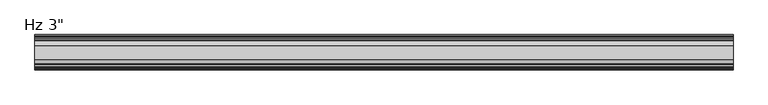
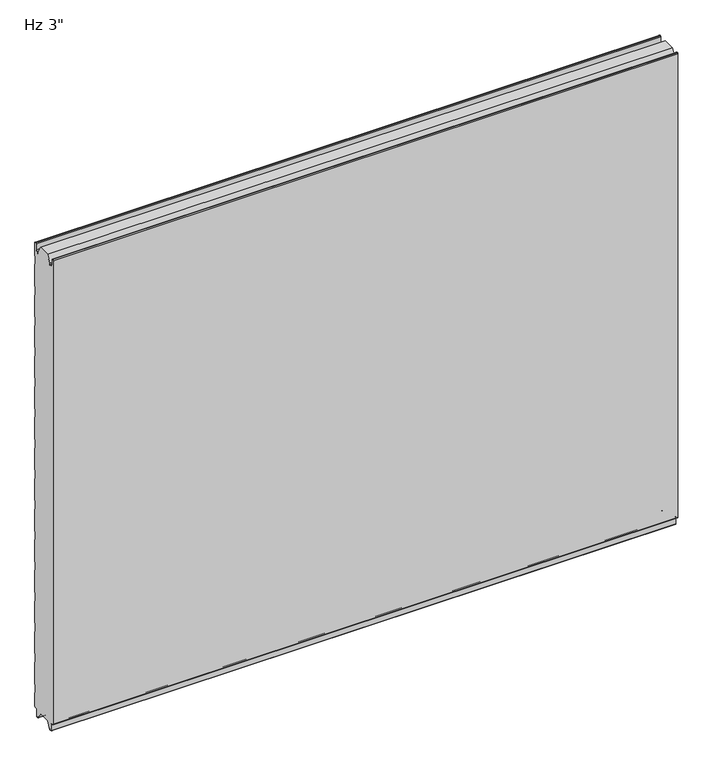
"""IFC4 building model written with IfcOpenShell, lengths in millimetres: plate geometry."""

from ifc_helpers import new_model, si_unit, frame, origin, place, context, project, spatial, polyline, circle_curve, source, transform, mapped, element, save
from ifc_brep_helpers import plane_surface, cylinder_surface, revolved_surface, advanced_brep


def plate_b0cb46f3(model_context):
    return source(origin(), model_context, "Body", "AdvancedBrep", [
        advanced_brep(
        [(-730.0, -73.2227194, 3.8499499), (-730.0, -75.1999935, 5.8272239), (-730.0, -75.2, 1150.8100652), (-730.0, -73.2227315, 1152.7873337), (-730.0, -72.1806329, 1152.7873337), (-730.0, -70.2033643, 1150.8100652), (-730.0, -70.2033643, 1136.6216802), (-730.0, -67.6154878, 1134.0338036), (-730.0, -63.2950697, 1134.0338036), (-730.0, -62.7060762, 1133.4253365), (-730.0, -62.7060762, 1131.0482432), (-730.0, -61.7066023, 1131.0482432), (-730.0, -61.7066023, 1136.4905123), (-730.0, -52.4490865, 1152.525), (-730.0, -23.7509179, 1152.525), (-730.0, -14.4934021, 1136.4905123), (-730.0, -14.4934021, 1131.0482432), (-730.0, -13.4939282, 1131.0482432), (-730.0, -13.4939282, 1133.4253365), (-730.0, -12.9049347, 1134.0338036), (-730.0, -8.5845165, 1134.0338036), (-730.0, -5.99664, 1136.6216802), (-730.0, -5.99664, 1150.8100652), (-730.0, -4.0193715, 1152.7873337), (-730.0, -2.9772729, 1152.7873337), (-730.0, -1.0000044, 1150.8100652), (-730.0, -1.0000044, 1118.6385351), (-730.0, -2.1911595, 1117.5660142), (-730.0, -2.1911595, 1097.7830195), (-730.0, -1.0, 1096.7104947), (-730.0, -1.0, 1043.0159187), (-730.0, -2.1911595, 1041.9433939), (-730.0, -2.1911595, 1022.1603992), (-730.0, -1.0, 1021.0878744), (-730.0, -1.0, 967.3932985), (-730.0, -2.1911595, 966.3207736), (-730.0, -2.1911595, 946.537779), (-730.0, -1.0, 945.4652541), (-730.0, -1.0, 891.7706782), (-730.0, -2.1911595, 890.6981534), (-730.0, -2.1911595, 870.9151587), (-730.0, -1.0, 869.8426339), (-730.0, -1.0, 816.148058), (-730.0, -2.1911595, 815.0755331), (-730.0, -2.1911595, 795.2925384), (-730.0, -1.0, 794.2200136), (-730.0, -1.0, 740.5254377), (-730.0, -2.1911595, 739.4529129), (-730.0, -2.1911595, 719.6699182), (-730.0, -1.0, 718.5973933), (-730.0, -1.0, 664.9028174), (-730.0, -2.1911595, 663.8302926), (-730.0, -2.1911595, 644.0472979), (-730.0, -1.0, 642.9747731), (-730.0, -1.0, 589.2801972), (-730.0, -2.1911595, 588.2076723), (-730.0, -2.1911595, 568.4246776), (-730.0, -1.0, 567.3521528), (-730.0, -1.0, 513.6575769), (-730.0, -2.1911595, 512.5850521), (-730.0, -2.1911595, 492.8020574), (-730.0, -1.0, 491.7295325), (-730.0, -1.0, 438.0349566), (-730.0, -2.1911595, 436.9624318), (-730.0, -2.1911595, 417.1794371), (-730.0, -1.0, 416.1069123), (-730.0, -1.0, 362.4123364), (-730.0, -2.1911595, 361.3398115), (-730.0, -2.1911595, 341.5568169), (-730.0, -1.0, 340.484292), (-730.0, -1.0, 286.7897161), (-730.0, -2.1911595, 285.7171913), (-730.0, -2.1911595, 265.9341966), (-730.0, -1.0, 264.8616718), (-730.0, -1.0, 211.1670958), (-730.0, -2.1911595, 210.094571), (-730.0, -2.1911595, 190.3115763), (-730.0, -1.0, 189.2390515), (-730.0, -1.0, 135.5444756), (-730.0, -2.1911595, 134.4719507), (-730.0, -2.1911595, 114.6889561), (-730.0, -1.0, 113.6164312), (-730.0, -1.0, 59.9218553), (-730.0, -2.1911595, 58.8493305), (-730.0, -2.1911595, 39.0663358), (-730.0, -1.0000109, 37.993811), (-730.0, -1.0000109, 5.8272239), (-730.0, -2.9772849, 3.8499499), (-730.0, -5.2691749, 3.8499499), (-730.0, -9.246442, -0.1273173), (-730.0, -9.246442, -15.7237417), (-730.0, -9.8343189, -16.3116186), (-730.0, -12.9058679, -16.3116186), (-730.0, -13.4937446, -15.723742), (-730.0, -13.4937446, -13.3687064), (-730.0, -14.4937446, -13.3687064), (-730.0, -14.4937446, -15.6582851), (-730.0, -23.7509179, 0.0), (-730.0, -52.4490865, 0.0), (-730.0, -61.7062598, -15.6582851), (-730.0, -61.7062598, -13.3687064), (-730.0, -62.7062598, -13.3687064), (-730.0, -62.7062598, -15.723742), (-730.0, -63.2941365, -16.3116186), (-730.0, -66.3656854, -16.3116186), (-730.0, -66.9535623, -15.7237417), (-730.0, -66.9535623, -0.1273173), (-730.0, -70.9308295, 3.8499499), (730.0, -73.2227194, 3.8499499), (730.0, -70.9308295, 3.8499499), (730.0, -66.9535623, -0.1273173), (730.0, -66.9535623, -15.7237417), (730.0, -66.3656854, -16.3116186), (730.0, -63.2941365, -16.3116186), (730.0, -62.7062598, -15.723742), (730.0, -62.7062598, -13.3687064), (730.0, -61.7062598, -13.3687064), (730.0, -61.7062598, -15.6582851), (730.0, -52.4490865, 0.0), (730.0, -23.7509179, 0.0), (730.0, -14.4937446, -15.6582851), (730.0, -14.4937446, -13.3687064), (730.0, -13.4937446, -13.3687064), (730.0, -13.4937446, -15.723742), (730.0, -12.9058679, -16.3116186), (730.0, -9.8343189, -16.3116186), (730.0, -9.246442, -15.7237417), (730.0, -9.246442, -0.1273173), (730.0, -5.2691749, 3.8499499), (730.0, -2.9772849, 3.8499499), (730.0, -1.0000109, 5.8272239), (730.0, -1.0000109, 37.993811), (730.0, -2.1911595, 39.0663358), (730.0, -2.1911595, 58.8493305), (730.0, -1.0, 59.9218553), (730.0, -1.0, 113.6164312), (730.0, -2.1911595, 114.6889561), (730.0, -2.1911595, 134.4719507), (730.0, -1.0, 135.5444756), (730.0, -1.0, 189.2390515), (730.0, -2.1911595, 190.3115763), (730.0, -2.1911595, 210.094571), (730.0, -1.0, 211.1670958), (730.0, -1.0, 264.8616718), (730.0, -2.1911595, 265.9341966), (730.0, -2.1911595, 285.7171913), (730.0, -1.0, 286.7897161), (730.0, -1.0, 340.484292), (730.0, -2.1911595, 341.5568169), (730.0, -2.1911595, 361.3398115), (730.0, -1.0, 362.4123364), (730.0, -1.0, 416.1069123), (730.0, -2.1911595, 417.1794371), (730.0, -2.1911595, 436.9624318), (730.0, -1.0, 438.0349566), (730.0, -1.0, 491.7295325), (730.0, -2.1911595, 492.8020574), (730.0, -2.1911595, 512.5850521), (730.0, -1.0, 513.6575769), (730.0, -1.0, 567.3521528), (730.0, -2.1911595, 568.4246776), (730.0, -2.1911595, 588.2076723), (730.0, -1.0, 589.2801972), (730.0, -1.0, 642.9747731), (730.0, -2.1911595, 644.0472979), (730.0, -2.1911595, 663.8302926), (730.0, -1.0, 664.9028174), (730.0, -1.0, 718.5973933), (730.0, -2.1911595, 719.6699182), (730.0, -2.1911595, 739.4529129), (730.0, -1.0, 740.5254377), (730.0, -1.0, 794.2200136), (730.0, -2.1911595, 795.2925384), (730.0, -2.1911595, 815.0755331), (730.0, -1.0, 816.148058), (730.0, -1.0, 869.8426339), (730.0, -2.1911595, 870.9151587), (730.0, -2.1911595, 890.6981534), (730.0, -1.0, 891.7706782), (730.0, -1.0, 945.4652541), (730.0, -2.1911595, 946.537779), (730.0, -2.1911595, 966.3207736), (730.0, -1.0, 967.3932985), (730.0, -1.0, 1021.0878744), (730.0, -2.1911595, 1022.1603992), (730.0, -2.1911595, 1041.9433939), (730.0, -1.0, 1043.0159187), (730.0, -1.0, 1096.7104947), (730.0, -2.1911595, 1097.7830195), (730.0, -2.1911595, 1117.5660142), (730.0, -1.0000044, 1118.6385351), (730.0, -1.0000044, 1150.8100652), (730.0, -2.9772729, 1152.7873337), (730.0, -4.0193715, 1152.7873337), (730.0, -5.99664, 1150.8100652), (730.0, -5.99664, 1136.6216802), (730.0, -8.5845165, 1134.0338036), (730.0, -12.9049347, 1134.0338036), (730.0, -13.4939282, 1133.4253365), (730.0, -13.4939282, 1131.0482432), (730.0, -14.4934021, 1131.0482432), (730.0, -14.4934021, 1136.4905123), (730.0, -23.7509179, 1152.525), (730.0, -52.4490865, 1152.525), (730.0, -61.7066023, 1136.4905123), (730.0, -61.7066023, 1131.0482432), (730.0, -62.7060762, 1131.0482432), (730.0, -62.7060762, 1133.4253365), (730.0, -63.2950697, 1134.0338036), (730.0, -67.6154878, 1134.0338036), (730.0, -70.2033643, 1136.6216802), (730.0, -70.2033643, 1150.8100652), (730.0, -72.1806329, 1152.7873337), (730.0, -73.2227315, 1152.7873337), (730.0, -75.2, 1150.8100652), (730.0, -75.2, 5.8272239)],
        [
            (0, 1, circle_curve(frame((-730.0, -73.2227194, 5.8272239), z_axis=(-1.0, 0.0, 0.0), x_axis=(0.0, 0.0, -1.0)), 1.977274)),
            (1, 2),
            (2, 3, circle_curve(frame((-730.0, -73.2227315, 1150.8100652), z_axis=(-1.0, 0.0, 0.0), x_axis=(0.0, 0.0, -1.0)), 1.9772685)),
            (3, 4),
            (4, 5, circle_curve(frame((-730.0, -72.1806329, 1150.8100652), z_axis=(-1.0, 0.0, 0.0), x_axis=(0.0, 0.0, -1.0)), 1.9772685)),
            (5, 6),
            (6, 7, circle_curve(frame((-730.0, -67.6154878, 1136.6216802), z_axis=(1.0, 0.0, 0.0), x_axis=(0.0, 0.0, -1.0)), 2.5878765)),
            (7, 8),
            (8, 9, circle_curve(frame((-730.0, -63.2950697, 1133.4444985), z_axis=(-1.0, 0.0, 0.0), x_axis=(0.0, 0.0, -1.0)), 0.5893051)),
            (9, 10),
            (10, 11),
            (11, 12),
            (12, 13),
            (13, 14),
            (14, 15),
            (15, 16),
            (16, 17),
            (17, 18),
            (18, 19, circle_curve(frame((-730.0, -12.9049347, 1133.4444985), z_axis=(-1.0, 0.0, 0.0), x_axis=(0.0, 1.0, 0.0)), 0.5893051)),
            (19, 20),
            (20, 21, circle_curve(frame((-730.0, -8.5845165, 1136.6216802), z_axis=(1.0, 0.0, 0.0), x_axis=(0.0, 1.0, 0.0)), 2.5878765)),
            (21, 22),
            (22, 23, circle_curve(frame((-730.0, -4.0193715, 1150.8100652), z_axis=(-1.0, 0.0, 0.0), x_axis=(0.0, 1.0, 0.0)), 1.9772685)),
            (23, 24),
            (24, 25, circle_curve(frame((-730.0, -2.9772729, 1150.8100652), z_axis=(-1.0, 0.0, 0.0), x_axis=(0.0, 1.0, 0.0)), 1.9772685)),
            (25, 26),
            (26, 27),
            (27, 28),
            (28, 29),
            (29, 30),
            (30, 31),
            (31, 32),
            (32, 33),
            (33, 34),
            (34, 35),
            (35, 36),
            (36, 37),
            (37, 38),
            (38, 39),
            (39, 40),
            (40, 41),
            (41, 42),
            (42, 43),
            (43, 44),
            (44, 45),
            (45, 46),
            (46, 47),
            (47, 48),
            (48, 49),
            (49, 50),
            (50, 51),
            (51, 52),
            (52, 53),
            (53, 54),
            (54, 55),
            (55, 56),
            (56, 57),
            (57, 58),
            (58, 59),
            (59, 60),
            (60, 61),
            (61, 62),
            (62, 63),
            (63, 64),
            (64, 65),
            (65, 66),
            (66, 67),
            (67, 68),
            (68, 69),
            (69, 70),
            (70, 71),
            (71, 72),
            (72, 73),
            (73, 74),
            (74, 75),
            (75, 76),
            (76, 77),
            (77, 78),
            (78, 79),
            (79, 80),
            (80, 81),
            (81, 82),
            (82, 83),
            (83, 84),
            (84, 85),
            (85, 86),
            (86, 87, circle_curve(frame((-730.0, -2.9772849, 5.8272239), z_axis=(-1.0, 0.0, 0.0), x_axis=(0.0, 1.0, 0.0)), 1.977274)),
            (87, 88),
            (88, 89, circle_curve(frame((-730.0, -5.2691749, -0.1273173), z_axis=(1.0, 0.0, 0.0), x_axis=(0.0, 1.0, 0.0)), 3.9772671)),
            (89, 90),
            (90, 91, circle_curve(frame((-730.0, -9.8343189, -15.7237417), z_axis=(-1.0, 0.0, 0.0), x_axis=(0.0, 1.0, 0.0)), 0.5878769)),
            (91, 92),
            (92, 93, circle_curve(frame((-730.0, -12.9058679, -15.723742), z_axis=(-1.0, 0.0, 0.0), x_axis=(0.0, 1.0, 0.0)), 0.5878766)),
            (93, 94),
            (94, 95),
            (95, 96),
            (96, 97),
            (97, 98),
            (98, 99),
            (99, 100),
            (100, 101),
            (101, 102),
            (102, 103, circle_curve(frame((-730.0, -63.2941365, -15.723742), z_axis=(-1.0, 0.0, 0.0), x_axis=(0.0, 0.0, -1.0)), 0.5878766)),
            (103, 104),
            (104, 105, circle_curve(frame((-730.0, -66.3656854, -15.7237417), z_axis=(-1.0, 0.0, 0.0), x_axis=(0.0, 0.0, -1.0)), 0.5878769)),
            (105, 106),
            (106, 107, circle_curve(frame((-730.0, -70.9308295, -0.1273173), z_axis=(1.0, 0.0, 0.0), x_axis=(0.0, 0.0, -1.0)), 3.9772671)),
            (107, 0),
            (108, 109),
            (109, 110, circle_curve(frame((730.0, -70.9308295, -0.1273173), z_axis=(-1.0, 0.0, 0.0), x_axis=(0.0, 0.0, -1.0)), 3.9772671)),
            (110, 111),
            (111, 112, circle_curve(frame((730.0, -66.3656854, -15.7237417), z_axis=(1.0, 0.0, 0.0), x_axis=(0.0, 0.0, -1.0)), 0.5878769)),
            (112, 113),
            (113, 114, circle_curve(frame((730.0, -63.2941365, -15.723742), z_axis=(1.0, 0.0, 0.0), x_axis=(0.0, 0.0, -1.0)), 0.5878766)),
            (114, 115),
            (115, 116),
            (116, 117),
            (117, 118),
            (118, 119),
            (119, 120),
            (120, 121),
            (121, 122),
            (122, 123),
            (123, 124, circle_curve(frame((730.0, -12.9058679, -15.723742), z_axis=(1.0, 0.0, 0.0), x_axis=(0.0, 1.0, 0.0)), 0.5878766)),
            (124, 125),
            (125, 126, circle_curve(frame((730.0, -9.8343189, -15.7237417), z_axis=(1.0, 0.0, 0.0), x_axis=(0.0, 1.0, 0.0)), 0.5878769)),
            (126, 127),
            (127, 128, circle_curve(frame((730.0, -5.2691749, -0.1273173), z_axis=(-1.0, 0.0, 0.0), x_axis=(0.0, 1.0, 0.0)), 3.9772671)),
            (128, 129),
            (129, 130, circle_curve(frame((730.0, -2.9772849, 5.8272239), z_axis=(1.0, 0.0, 0.0), x_axis=(0.0, 1.0, 0.0)), 1.977274)),
            (130, 131),
            (131, 132),
            (132, 133),
            (133, 134),
            (134, 135),
            (135, 136),
            (136, 137),
            (137, 138),
            (138, 139),
            (139, 140),
            (140, 141),
            (141, 142),
            (142, 143),
            (143, 144),
            (144, 145),
            (145, 146),
            (146, 147),
            (147, 148),
            (148, 149),
            (149, 150),
            (150, 151),
            (151, 152),
            (152, 153),
            (153, 154),
            (154, 155),
            (155, 156),
            (156, 157),
            (157, 158),
            (158, 159),
            (159, 160),
            (160, 161),
            (161, 162),
            (162, 163),
            (163, 164),
            (164, 165),
            (165, 166),
            (166, 167),
            (167, 168),
            (168, 169),
            (169, 170),
            (170, 171),
            (171, 172),
            (172, 173),
            (173, 174),
            (174, 175),
            (175, 176),
            (176, 177),
            (177, 178),
            (178, 179),
            (179, 180),
            (180, 181),
            (181, 182),
            (182, 183),
            (183, 184),
            (184, 185),
            (185, 186),
            (186, 187),
            (187, 188),
            (188, 189),
            (189, 190),
            (190, 191),
            (191, 192, circle_curve(frame((730.0, -2.9772729, 1150.8100652), z_axis=(1.0, 0.0, 0.0), x_axis=(0.0, 1.0, 0.0)), 1.9772685)),
            (192, 193),
            (193, 194, circle_curve(frame((730.0, -4.0193715, 1150.8100652), z_axis=(1.0, 0.0, 0.0), x_axis=(0.0, 1.0, 0.0)), 1.9772685)),
            (194, 195),
            (195, 196, circle_curve(frame((730.0, -8.5845165, 1136.6216802), z_axis=(-1.0, 0.0, 0.0), x_axis=(0.0, 1.0, 0.0)), 2.5878765)),
            (196, 197),
            (197, 198, circle_curve(frame((730.0, -12.9049347, 1133.4444985), z_axis=(1.0, 0.0, 0.0), x_axis=(0.0, 1.0, 0.0)), 0.5893051)),
            (198, 199),
            (199, 200),
            (200, 201),
            (201, 202),
            (202, 203),
            (203, 204),
            (204, 205),
            (205, 206),
            (206, 207),
            (207, 208, circle_curve(frame((730.0, -63.2950697, 1133.4444985), z_axis=(1.0, 0.0, 0.0), x_axis=(0.0, 0.0, -1.0)), 0.5893051)),
            (208, 209),
            (209, 210, circle_curve(frame((730.0, -67.6154878, 1136.6216802), z_axis=(-1.0, 0.0, 0.0), x_axis=(0.0, 0.0, -1.0)), 2.5878765)),
            (210, 211),
            (211, 212, circle_curve(frame((730.0, -72.1806329, 1150.8100652), z_axis=(1.0, 0.0, 0.0), x_axis=(0.0, 0.0, -1.0)), 1.9772685)),
            (212, 213),
            (213, 214, circle_curve(frame((730.0, -73.2227315, 1150.8100652), z_axis=(1.0, 0.0, 0.0), x_axis=(0.0, 0.0, -1.0)), 1.9772685)),
            (214, 215),
            (215, 108, circle_curve(frame((730.0, -73.2227194, 5.8272239), z_axis=(1.0, 0.0, 0.0), x_axis=(0.0, 0.0, -1.0)), 1.977274)),
            (27, 189),
            (188, 28),
            (26, 190),
            (25, 191),
            (24, 192),
            (23, 193),
            (22, 194),
            (21, 195),
            (20, 196),
            (19, 197),
            (18, 198),
            (17, 199),
            (16, 200),
            (15, 201),
            (14, 202),
            (96, 120),
            (119, 97),
            (95, 121),
            (94, 122),
            (93, 123),
            (92, 124),
            (91, 125),
            (90, 126),
            (89, 127),
            (88, 128),
            (87, 129),
            (86, 130),
            (85, 131),
            (84, 132),
            (83, 133),
            (82, 134),
            (81, 135),
            (80, 136),
            (79, 137),
            (78, 138),
            (77, 139),
            (76, 140),
            (75, 141),
            (74, 142),
            (73, 143),
            (72, 144),
            (71, 145),
            (70, 146),
            (69, 147),
            (68, 148),
            (67, 149),
            (66, 150),
            (65, 151),
            (64, 152),
            (63, 153),
            (62, 154),
            (61, 155),
            (60, 156),
            (59, 157),
            (58, 158),
            (57, 159),
            (56, 160),
            (55, 161),
            (54, 162),
            (53, 163),
            (52, 164),
            (51, 165),
            (50, 166),
            (49, 167),
            (48, 168),
            (47, 169),
            (46, 170),
            (45, 171),
            (44, 172),
            (43, 173),
            (42, 174),
            (41, 175),
            (40, 176),
            (39, 177),
            (38, 178),
            (37, 179),
            (36, 180),
            (35, 181),
            (34, 182),
            (33, 183),
            (32, 184),
            (31, 185),
            (30, 186),
            (29, 187),
            (13, 203),
            (118, 98),
            (107, 109),
            (108, 0),
            (106, 110),
            (105, 111),
            (104, 112),
            (103, 113),
            (102, 114),
            (101, 115),
            (100, 116),
            (99, 117),
            (12, 204),
            (11, 205),
            (10, 206),
            (9, 207),
            (8, 208),
            (7, 209),
            (6, 210),
            (5, 211),
            (4, 212),
            (3, 213),
            (2, 214),
            (1, 215),
        ],
        [
            plane_surface(frame((-730.0, -75.2, 576.2625), z_axis=(-1.0, 0.0, 0.0), x_axis=(0.0, -1.0, 0.0))),
            plane_surface(frame((730.0, -75.2, 576.2625), z_axis=(1.0, 0.0, 0.0), x_axis=(0.0, -1.0, 0.0))),
            plane_surface(frame((-730.0, -2.1911595, 1097.7830195), z_axis=(0.0, 1.0, 0.0), x_axis=(1.0, 0.0, 0.0))),
            plane_surface(frame((-730.0, -2.1911595, 1117.5660142), z_axis=(0.0, 0.669130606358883, -0.7431448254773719), x_axis=(1.0, 0.0, 0.0))),
            plane_surface(frame((-730.0, -1.0000044, 1118.6385351), z_axis=(0.0, 1.0, 0.0), x_axis=(1.0, 0.0, 0.0))),
            cylinder_surface(frame((-730.0, -2.9772729, 1150.8100652), z_axis=(-1.0, 0.0, 0.0), x_axis=(0.0, 1.0, 0.0)), 1.9772685),
            plane_surface(frame((-730.0, -2.9772729, 1152.7873337), z_axis=(0.0, 0.0, 1.0), x_axis=(1.0, 0.0, 0.0))),
            cylinder_surface(frame((-730.0, -4.0193715, 1150.8100652), z_axis=(-1.0, 0.0, 0.0), x_axis=(0.0, 1.0, 0.0)), 1.9772685),
            plane_surface(frame((-730.0, -5.99664, 1150.8100652), z_axis=(0.0, -1.0, 0.0), x_axis=(1.0, 0.0, 0.0))),
            revolved_surface(polyline([(730.0, -5.996639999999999, 1136.6216802), (-730.0, -5.996639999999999, 1136.6216802)]), (-730.0, -8.5845165, 1136.6216802), (1.0, 0.0, 0.0)),
            plane_surface(frame((-730.0, -8.5845165, 1134.0338036), z_axis=(0.0, 0.0, 1.0), x_axis=(1.0, 0.0, 0.0))),
            cylinder_surface(frame((-730.0, -12.9049347, 1133.4444985), z_axis=(-1.0, 0.0, 0.0), x_axis=(0.0, 1.0, 0.0)), 0.5893051),
            plane_surface(frame((-730.0, -13.4939282, 1133.4253365), z_axis=(0.0, -1.0, 0.0), x_axis=(1.0, 0.0, 0.0))),
            plane_surface(frame((-730.0, -13.4939282, 1131.0482432), z_axis=(0.0, 0.0, 1.0), x_axis=(1.0, 0.0, 0.0))),
            plane_surface(frame((-730.0, -14.4934021, 1131.0482432), z_axis=(0.0, 1.0, 0.0), x_axis=(1.0, 0.0, 0.0))),
            plane_surface(frame((-730.0, -14.4934021, 1136.4905123), z_axis=(0.0, 0.8660254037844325, 0.5000000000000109), x_axis=(1.0, 0.0, 0.0))),
            plane_surface(frame((-730.0, -23.7509179, 0.0), z_axis=(0.0, -0.8608169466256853, -0.5089147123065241), x_axis=(1.0, 0.0, 0.0))),
            plane_surface(frame((-730.0, -14.4937446, -15.6582851), z_axis=(0.0, 1.0, 0.0), x_axis=(1.0, 0.0, 0.0))),
            plane_surface(frame((-730.0, -14.4937446, -13.3687064), z_axis=(0.0, 0.0, -1.0), x_axis=(1.0, 0.0, 0.0))),
            plane_surface(frame((-730.0, -13.4937446, -13.3687064), z_axis=(0.0, -1.0, 0.0), x_axis=(1.0, 0.0, 0.0))),
            cylinder_surface(frame((-730.0, -12.9058679, -15.723742), z_axis=(-1.0, 0.0, 0.0), x_axis=(0.0, 1.0, 0.0)), 0.5878766),
            plane_surface(frame((-730.0, -12.9058679, -16.3116186), z_axis=(0.0, 0.0, -1.0), x_axis=(1.0, 0.0, 0.0))),
            cylinder_surface(frame((-730.0, -9.8343189, -15.7237417), z_axis=(-1.0, 0.0, 0.0), x_axis=(0.0, 1.0, 0.0)), 0.5878769),
            plane_surface(frame((-730.0, -9.246442, -15.7237417), z_axis=(0.0, 1.0, 0.0), x_axis=(1.0, 0.0, 0.0))),
            revolved_surface(polyline([(730.0, -1.2919078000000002, -0.1273173), (-730.0, -1.2919078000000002, -0.1273173)]), (-730.0, -5.2691749, -0.1273173), (1.0, 0.0, 0.0)),
            plane_surface(frame((-730.0, -5.2691749, 3.8499499), z_axis=(0.0, 0.0, -1.0), x_axis=(1.0, 0.0, 0.0))),
            cylinder_surface(frame((-730.0, -2.9772849, 5.8272239), z_axis=(-1.0, 0.0, 0.0), x_axis=(0.0, 1.0, 0.0)), 1.977274),
            plane_surface(frame((-730.0, -1.0000109, 5.8272239), z_axis=(0.0, 1.0, 0.0), x_axis=(1.0, 0.0, 0.0))),
            plane_surface(frame((-730.0, -1.0000109, 37.993811), z_axis=(0.0, 0.6691339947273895, 0.7431417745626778), x_axis=(1.0, 0.0, 0.0))),
            plane_surface(frame((-730.0, -2.1911595, 39.0663358), z_axis=(0.0, 1.0, 0.0), x_axis=(1.0, 0.0, 0.0))),
            plane_surface(frame((-730.0, -2.1911595, 58.8493305), z_axis=(0.0, 0.6691306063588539, -0.7431448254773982), x_axis=(1.0, 0.0, 0.0))),
            plane_surface(frame((-730.0, -1.0, 59.9218553), z_axis=(0.0, 1.0, 0.0), x_axis=(1.0, 0.0, 0.0))),
            plane_surface(frame((-730.0, -1.0, 113.6164312), z_axis=(0.0, 0.6691306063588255, 0.7431448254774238), x_axis=(1.0, 0.0, 0.0))),
            plane_surface(frame((-730.0, -2.1911595, 114.6889561), z_axis=(0.0, 1.0, 0.0), x_axis=(1.0, 0.0, 0.0))),
            plane_surface(frame((-730.0, -2.1911595, 134.4719507), z_axis=(0.0, 0.6691306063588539, -0.7431448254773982), x_axis=(1.0, 0.0, 0.0))),
            plane_surface(frame((-730.0, -1.0, 135.5444756), z_axis=(0.0, 1.0, 0.0), x_axis=(1.0, 0.0, 0.0))),
            plane_surface(frame((-730.0, -1.0, 189.2390515), z_axis=(0.0, 0.669130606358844, 0.743144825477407), x_axis=(1.0, 0.0, 0.0))),
            plane_surface(frame((-730.0, -2.1911595, 190.3115763), z_axis=(0.0, 1.0, 0.0), x_axis=(1.0, 0.0, 0.0))),
            plane_surface(frame((-730.0, -2.1911595, 210.094571), z_axis=(0.0, 0.6691306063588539, -0.7431448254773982), x_axis=(1.0, 0.0, 0.0))),
            plane_surface(frame((-730.0, -1.0, 211.1670958), z_axis=(0.0, 1.0, 0.0), x_axis=(1.0, 0.0, 0.0))),
            plane_surface(frame((-730.0, -1.0, 264.8616718), z_axis=(0.0, 0.6691306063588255, 0.7431448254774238), x_axis=(1.0, 0.0, 0.0))),
            plane_surface(frame((-730.0, -2.1911595, 265.9341966), z_axis=(0.0, 1.0, 0.0), x_axis=(1.0, 0.0, 0.0))),
            plane_surface(frame((-730.0, -2.1911595, 285.7171913), z_axis=(0.0, 0.6691306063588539, -0.7431448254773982), x_axis=(1.0, 0.0, 0.0))),
            plane_surface(frame((-730.0, -1.0, 286.7897161), z_axis=(0.0, 1.0, 0.0), x_axis=(1.0, 0.0, 0.0))),
            plane_surface(frame((-730.0, -1.0, 340.484292), z_axis=(0.0, 0.669130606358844, 0.743144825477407), x_axis=(1.0, 0.0, 0.0))),
            plane_surface(frame((-730.0, -2.1911595, 341.5568169), z_axis=(0.0, 1.0, 0.0), x_axis=(1.0, 0.0, 0.0))),
            plane_surface(frame((-730.0, -2.1911595, 361.3398115), z_axis=(0.0, 0.6691306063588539, -0.7431448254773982), x_axis=(1.0, 0.0, 0.0))),
            plane_surface(frame((-730.0, -1.0, 362.4123364), z_axis=(0.0, 1.0, 0.0), x_axis=(1.0, 0.0, 0.0))),
            plane_surface(frame((-730.0, -1.0, 416.1069123), z_axis=(0.0, 0.669130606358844, 0.743144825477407), x_axis=(1.0, 0.0, 0.0))),
            plane_surface(frame((-730.0, -2.1911595, 417.1794371), z_axis=(0.0, 1.0, 0.0), x_axis=(1.0, 0.0, 0.0))),
            plane_surface(frame((-730.0, -2.1911595, 436.9624318), z_axis=(0.0, 0.6691306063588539, -0.7431448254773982), x_axis=(1.0, 0.0, 0.0))),
            plane_surface(frame((-730.0, -1.0, 438.0349566), z_axis=(0.0, 1.0, 0.0), x_axis=(1.0, 0.0, 0.0))),
            plane_surface(frame((-730.0, -1.0, 491.7295325), z_axis=(0.0, 0.6691306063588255, 0.7431448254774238), x_axis=(1.0, 0.0, 0.0))),
            plane_surface(frame((-730.0, -2.1911595, 492.8020574), z_axis=(0.0, 1.0, 0.0), x_axis=(1.0, 0.0, 0.0))),
            plane_surface(frame((-730.0, -2.1911595, 512.5850521), z_axis=(0.0, 0.6691306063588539, -0.7431448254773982), x_axis=(1.0, 0.0, 0.0))),
            plane_surface(frame((-730.0, -1.0, 513.6575769), z_axis=(0.0, 1.0, 0.0), x_axis=(1.0, 0.0, 0.0))),
            plane_surface(frame((-730.0, -1.0, 567.3521528), z_axis=(0.0, 0.669130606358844, 0.743144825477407), x_axis=(1.0, 0.0, 0.0))),
            plane_surface(frame((-730.0, -2.1911595, 568.4246776), z_axis=(0.0, 1.0, 0.0), x_axis=(1.0, 0.0, 0.0))),
            plane_surface(frame((-730.0, -2.1911595, 588.2076723), z_axis=(0.0, 0.6691306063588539, -0.7431448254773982), x_axis=(1.0, 0.0, 0.0))),
            plane_surface(frame((-730.0, -1.0, 589.2801972), z_axis=(0.0, 1.0, 0.0), x_axis=(1.0, 0.0, 0.0))),
            plane_surface(frame((-730.0, -1.0, 642.9747731), z_axis=(0.0, 0.6691306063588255, 0.7431448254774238), x_axis=(1.0, 0.0, 0.0))),
            plane_surface(frame((-730.0, -2.1911595, 644.0472979), z_axis=(0.0, 1.0, 0.0), x_axis=(1.0, 0.0, 0.0))),
            plane_surface(frame((-730.0, -2.1911595, 663.8302926), z_axis=(0.0, 0.6691306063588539, -0.7431448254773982), x_axis=(1.0, 0.0, 0.0))),
            plane_surface(frame((-730.0, -1.0, 664.9028174), z_axis=(0.0, 1.0, 0.0), x_axis=(1.0, 0.0, 0.0))),
            plane_surface(frame((-730.0, -1.0, 718.5973933), z_axis=(0.0, 0.669130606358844, 0.743144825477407), x_axis=(1.0, 0.0, 0.0))),
            plane_surface(frame((-730.0, -2.1911595, 719.6699182), z_axis=(0.0, 1.0, 0.0), x_axis=(1.0, 0.0, 0.0))),
            plane_surface(frame((-730.0, -2.1911595, 739.4529129), z_axis=(0.0, 0.6691306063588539, -0.7431448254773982), x_axis=(1.0, 0.0, 0.0))),
            plane_surface(frame((-730.0, -1.0, 740.5254377), z_axis=(0.0, 1.0, 0.0), x_axis=(1.0, 0.0, 0.0))),
            plane_surface(frame((-730.0, -1.0, 794.2200136), z_axis=(0.0, 0.6691306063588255, 0.7431448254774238), x_axis=(1.0, 0.0, 0.0))),
            plane_surface(frame((-730.0, -2.1911595, 795.2925384), z_axis=(0.0, 1.0, 0.0), x_axis=(1.0, 0.0, 0.0))),
            plane_surface(frame((-730.0, -2.1911595, 815.0755331), z_axis=(0.0, 0.6691306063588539, -0.7431448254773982), x_axis=(1.0, 0.0, 0.0))),
            plane_surface(frame((-730.0, -1.0, 816.148058), z_axis=(0.0, 1.0, 0.0), x_axis=(1.0, 0.0, 0.0))),
            plane_surface(frame((-730.0, -1.0, 869.8426339), z_axis=(0.0, 0.669130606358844, 0.743144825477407), x_axis=(1.0, 0.0, 0.0))),
            plane_surface(frame((-730.0, -2.1911595, 870.9151587), z_axis=(0.0, 1.0, 0.0), x_axis=(1.0, 0.0, 0.0))),
            plane_surface(frame((-730.0, -2.1911595, 890.6981534), z_axis=(0.0, 0.6691306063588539, -0.7431448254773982), x_axis=(1.0, 0.0, 0.0))),
            plane_surface(frame((-730.0, -1.0, 891.7706782), z_axis=(0.0, 1.0, 0.0), x_axis=(1.0, 0.0, 0.0))),
            plane_surface(frame((-730.0, -1.0, 945.4652541), z_axis=(0.0, 0.669130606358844, 0.743144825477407), x_axis=(1.0, 0.0, 0.0))),
            plane_surface(frame((-730.0, -2.1911595, 946.537779), z_axis=(0.0, 1.0, 0.0), x_axis=(1.0, 0.0, 0.0))),
            plane_surface(frame((-730.0, -2.1911595, 966.3207736), z_axis=(0.0, 0.6691306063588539, -0.7431448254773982), x_axis=(1.0, 0.0, 0.0))),
            plane_surface(frame((-730.0, -1.0, 967.3932985), z_axis=(0.0, 1.0, 0.0), x_axis=(1.0, 0.0, 0.0))),
            plane_surface(frame((-730.0, -1.0, 1021.0878744), z_axis=(0.0, 0.669130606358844, 0.743144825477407), x_axis=(1.0, 0.0, 0.0))),
            plane_surface(frame((-730.0, -2.1911595, 1022.1603992), z_axis=(0.0, 1.0, 0.0), x_axis=(1.0, 0.0, 0.0))),
            plane_surface(frame((-730.0, -2.1911595, 1041.9433939), z_axis=(0.0, 0.6691306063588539, -0.7431448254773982), x_axis=(1.0, 0.0, 0.0))),
            plane_surface(frame((-730.0, -1.0, 1043.0159187), z_axis=(0.0, 1.0, 0.0), x_axis=(1.0, 0.0, 0.0))),
            plane_surface(frame((-730.0, -1.0, 1096.7104947), z_axis=(0.0, 0.669130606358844, 0.743144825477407), x_axis=(1.0, 0.0, 0.0))),
            plane_surface(frame((-730.0, -52.4490865, 1152.525), z_axis=(0.0, 0.0, 1.0), x_axis=(-1.0, 0.0, 0.0))),
            plane_surface(frame((-730.0, -52.4490865, 0.0), z_axis=(0.0, 0.0, -1.0), x_axis=(1.0, 0.0, 0.0))),
            plane_surface(frame((-730.0, -73.2227194, 3.8499499), z_axis=(0.0, 0.0, -1.0), x_axis=(1.0, 0.0, 0.0))),
            revolved_surface(polyline([(730.0, -70.9308295, -4.1045844), (-730.0, -70.9308295, -4.1045844)]), (-730.0, -70.9308295, -0.1273173), (1.0, 0.0, 0.0)),
            plane_surface(frame((-730.0, -66.9535623, -0.1273173), z_axis=(0.0, -1.0, 0.0), x_axis=(1.0, 0.0, 0.0))),
            cylinder_surface(frame((-730.0, -66.3656854, -15.7237417), z_axis=(-1.0, 0.0, 0.0), x_axis=(0.0, 0.0, -1.0)), 0.5878769),
            plane_surface(frame((-730.0, -66.3656854, -16.3116186), z_axis=(0.0, 0.0, -1.0), x_axis=(1.0, 0.0, 0.0))),
            cylinder_surface(frame((-730.0, -63.2941365, -15.723742), z_axis=(-1.0, 0.0, 0.0), x_axis=(0.0, 0.0, -1.0)), 0.5878766),
            plane_surface(frame((-730.0, -62.7062598, -15.723742), z_axis=(0.0, 1.0, 0.0), x_axis=(1.0, 0.0, 0.0))),
            plane_surface(frame((-730.0, -62.7062598, -13.3687064), z_axis=(0.0, 0.0, -1.0), x_axis=(1.0, 0.0, 0.0))),
            plane_surface(frame((-730.0, -61.7062598, -13.3687064), z_axis=(0.0, -1.0, 0.0), x_axis=(1.0, 0.0, 0.0))),
            plane_surface(frame((-730.0, -61.7062598, -15.6582851), z_axis=(0.0, 0.8608169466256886, -0.5089147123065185), x_axis=(1.0, 0.0, 0.0))),
            plane_surface(frame((-730.0, -52.4490865, 1152.525), z_axis=(0.0, -0.8660254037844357, 0.5000000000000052), x_axis=(1.0, 0.0, 0.0))),
            plane_surface(frame((-730.0, -61.7066023, 1136.4905123), z_axis=(0.0, -1.0, 0.0), x_axis=(1.0, 0.0, 0.0))),
            plane_surface(frame((-730.0, -61.7066023, 1131.0482432), z_axis=(0.0, 0.0, 1.0), x_axis=(1.0, 0.0, 0.0))),
            plane_surface(frame((-730.0, -62.7060762, 1131.0482432), z_axis=(0.0, 1.0, 0.0), x_axis=(1.0, 0.0, 0.0))),
            cylinder_surface(frame((-730.0, -63.2950697, 1133.4444985), z_axis=(-1.0, 0.0, 0.0), x_axis=(0.0, 0.0, -1.0)), 0.5893051),
            plane_surface(frame((-730.0, -63.2950697, 1134.0338036), z_axis=(0.0, 0.0, 1.0), x_axis=(1.0, 0.0, 0.0))),
            revolved_surface(polyline([(730.0, -67.6154878, 1134.0338037), (-730.0, -67.6154878, 1134.0338037)]), (-730.0, -67.6154878, 1136.6216802), (1.0, 0.0, 0.0)),
            plane_surface(frame((-730.0, -70.2033643, 1136.6216802), z_axis=(0.0, 1.0, 0.0), x_axis=(1.0, 0.0, 0.0))),
            cylinder_surface(frame((-730.0, -72.1806329, 1150.8100652), z_axis=(-1.0, 0.0, 0.0), x_axis=(0.0, 0.0, -1.0)), 1.9772685),
            plane_surface(frame((-730.0, -72.1806329, 1152.7873337), z_axis=(0.0, 0.0, 1.0), x_axis=(1.0, 0.0, 0.0))),
            cylinder_surface(frame((-730.0, -73.2227315, 1150.8100652), z_axis=(-1.0, 0.0, 0.0), x_axis=(0.0, 0.0, -1.0)), 1.9772685),
            plane_surface(frame((-730.0, -75.2, 1150.8100652), z_axis=(0.0, -1.0, 0.0), x_axis=(1.0, 0.0, 0.0))),
            cylinder_surface(frame((-730.0, -73.2227194, 5.8272239), z_axis=(-1.0, 0.0, 0.0), x_axis=(0.0, 0.0, -1.0)), 1.977274),
        ],
        [
            (0, [[1, 2, 3, 4, 5, 6, 7, 8, 9, 10, 11, 12, 13, 14, 15, 16, 17, 18, 19, 20, 21, 22, 23, 24, 25, 26, 27, 28, 29, 30, 31, 32, 33, 34, 35, 36, 37, 38, 39, 40, 41, 42, 43, 44, 45, 46, 47, 48, 49, 50, 51, 52, 53, 54, 55, 56, 57, 58, 59, 60, 61, 62, 63, 64, 65, 66, 67, 68, 69, 70, 71, 72, 73, 74, 75, 76, 77, 78, 79, 80, 81, 82, 83, 84, 85, 86, 87, 88, 89, 90, 91, 92, 93, 94, 95, 96, 97, 98, 99, 100, 101, 102, 103, 104, 105, 106, 107, 108]]),
            (1, [[109, 110, 111, 112, 113, 114, 115, 116, 117, 118, 119, 120, 121, 122, 123, 124, 125, 126, 127, 128, 129, 130, 131, 132, 133, 134, 135, 136, 137, 138, 139, 140, 141, 142, 143, 144, 145, 146, 147, 148, 149, 150, 151, 152, 153, 154, 155, 156, 157, 158, 159, 160, 161, 162, 163, 164, 165, 166, 167, 168, 169, 170, 171, 172, 173, 174, 175, 176, 177, 178, 179, 180, 181, 182, 183, 184, 185, 186, 187, 188, 189, 190, 191, 192, 193, 194, 195, 196, 197, 198, 199, 200, 201, 202, 203, 204, 205, 206, 207, 208, 209, 210, 211, 212, 213, 214, 215, 216]]),
            (2, [[217, -189, 218, -28]]),
            (3, [[219, -190, -217, -27]]),
            (4, [[220, -191, -219, -26]]),
            (5, [[221, -192, -220, -25]]),
            (6, [[222, -193, -221, -24]]),
            (7, [[223, -194, -222, -23]]),
            (8, [[224, -195, -223, -22]]),
            (9, [[225, -196, -224, -21]]),
            (10, [[226, -197, -225, -20]]),
            (11, [[227, -198, -226, -19]]),
            (12, [[228, -199, -227, -18]]),
            (13, [[229, -200, -228, -17]]),
            (14, [[230, -201, -229, -16]]),
            (15, [[231, -202, -230, -15]]),
            (16, [[232, -120, 233, -97]]),
            (17, [[234, -121, -232, -96]]),
            (18, [[235, -122, -234, -95]]),
            (19, [[236, -123, -235, -94]]),
            (20, [[237, -124, -236, -93]]),
            (21, [[238, -125, -237, -92]]),
            (22, [[239, -126, -238, -91]]),
            (23, [[240, -127, -239, -90]]),
            (24, [[241, -128, -240, -89]]),
            (25, [[242, -129, -241, -88]]),
            (26, [[243, -130, -242, -87]]),
            (27, [[244, -131, -243, -86]]),
            (28, [[245, -132, -244, -85]]),
            (29, [[246, -133, -245, -84]]),
            (30, [[247, -134, -246, -83]]),
            (31, [[248, -135, -247, -82]]),
            (32, [[249, -136, -248, -81]]),
            (33, [[250, -137, -249, -80]]),
            (34, [[251, -138, -250, -79]]),
            (35, [[252, -139, -251, -78]]),
            (36, [[253, -140, -252, -77]]),
            (37, [[254, -141, -253, -76]]),
            (38, [[255, -142, -254, -75]]),
            (39, [[256, -143, -255, -74]]),
            (40, [[257, -144, -256, -73]]),
            (41, [[258, -145, -257, -72]]),
            (42, [[259, -146, -258, -71]]),
            (43, [[260, -147, -259, -70]]),
            (44, [[261, -148, -260, -69]]),
            (45, [[262, -149, -261, -68]]),
            (46, [[263, -150, -262, -67]]),
            (47, [[264, -151, -263, -66]]),
            (48, [[265, -152, -264, -65]]),
            (49, [[266, -153, -265, -64]]),
            (50, [[267, -154, -266, -63]]),
            (51, [[268, -155, -267, -62]]),
            (52, [[269, -156, -268, -61]]),
            (53, [[270, -157, -269, -60]]),
            (54, [[271, -158, -270, -59]]),
            (55, [[272, -159, -271, -58]]),
            (56, [[273, -160, -272, -57]]),
            (57, [[274, -161, -273, -56]]),
            (58, [[275, -162, -274, -55]]),
            (59, [[276, -163, -275, -54]]),
            (60, [[277, -164, -276, -53]]),
            (61, [[278, -165, -277, -52]]),
            (62, [[279, -166, -278, -51]]),
            (63, [[280, -167, -279, -50]]),
            (64, [[281, -168, -280, -49]]),
            (65, [[282, -169, -281, -48]]),
            (66, [[283, -170, -282, -47]]),
            (67, [[284, -171, -283, -46]]),
            (68, [[285, -172, -284, -45]]),
            (69, [[286, -173, -285, -44]]),
            (70, [[287, -174, -286, -43]]),
            (71, [[288, -175, -287, -42]]),
            (72, [[289, -176, -288, -41]]),
            (73, [[290, -177, -289, -40]]),
            (74, [[291, -178, -290, -39]]),
            (75, [[292, -179, -291, -38]]),
            (76, [[293, -180, -292, -37]]),
            (77, [[294, -181, -293, -36]]),
            (78, [[295, -182, -294, -35]]),
            (79, [[296, -183, -295, -34]]),
            (80, [[297, -184, -296, -33]]),
            (81, [[298, -185, -297, -32]]),
            (82, [[299, -186, -298, -31]]),
            (83, [[300, -187, -299, -30]]),
            (84, [[-218, -188, -300, -29]]),
            (85, [[301, -203, -231, -14]]),
            (86, [[302, -98, -233, -119]]),
            (87, [[303, -109, 304, -108]]),
            (88, [[305, -110, -303, -107]]),
            (89, [[306, -111, -305, -106]]),
            (90, [[307, -112, -306, -105]]),
            (91, [[308, -113, -307, -104]]),
            (92, [[309, -114, -308, -103]]),
            (93, [[310, -115, -309, -102]]),
            (94, [[311, -116, -310, -101]]),
            (95, [[312, -117, -311, -100]]),
            (96, [[-302, -118, -312, -99]]),
            (97, [[313, -204, -301, -13]]),
            (98, [[314, -205, -313, -12]]),
            (99, [[315, -206, -314, -11]]),
            (100, [[316, -207, -315, -10]]),
            (101, [[317, -208, -316, -9]]),
            (102, [[318, -209, -317, -8]]),
            (103, [[319, -210, -318, -7]]),
            (104, [[320, -211, -319, -6]]),
            (105, [[321, -212, -320, -5]]),
            (106, [[322, -213, -321, -4]]),
            (107, [[323, -214, -322, -3]]),
            (108, [[324, -215, -323, -2]]),
            (109, [[-304, -216, -324, -1]]),
        ],
    ),
    ])


if __name__ == "__main__":
    model = new_model("IFC4")
    model_context = context("Model", 3, world=origin())
    ifc_project = project(units=[si_unit("LENGTHUNIT", "METRE", prefix="MILLI")], contexts=[model_context])
    site = spatial("IfcSite", under=ifc_project)
    building = spatial("IfcBuilding", under=site)
    placement = place(None, origin())
    plate_shape = plate_b0cb46f3(model_context)
    element("IfcPlate", 1, ObjectType="KIP-SLI-FLI-R19-CP-Hz-FL_SL : Hz 3\"", at=placement, inside=building, context=model_context, shape_type="MappedRepresentation", body=[
        mapped(plate_shape, transform((0.0, 0.0, 0.0), x_axis=(1.0, 0.0, 0.0), y_axis=(0.0, 1.0, 0.0), z_axis=(0.0, 0.0, 1.0))),
    ])
    save(model, "model.ifc")
